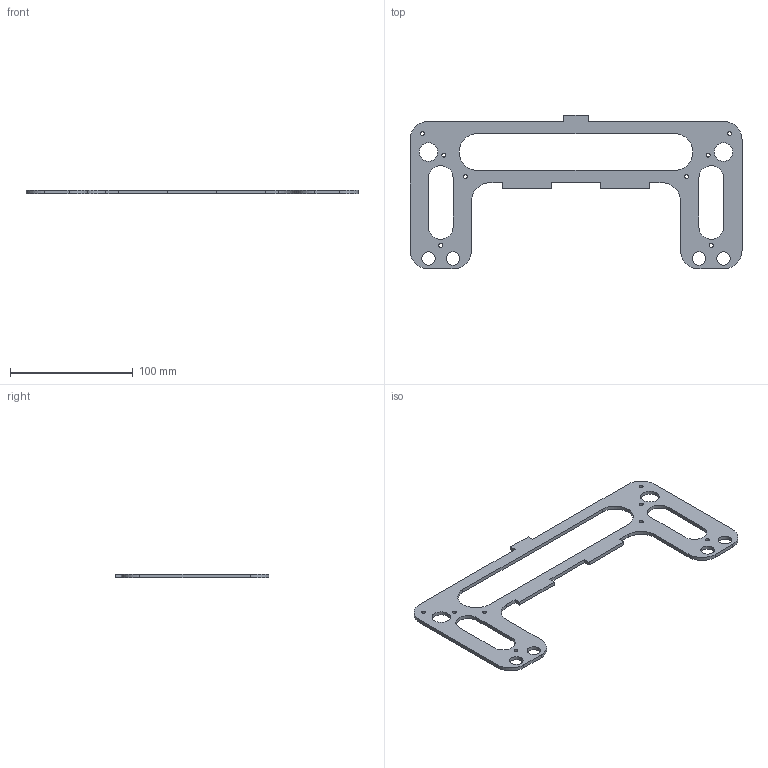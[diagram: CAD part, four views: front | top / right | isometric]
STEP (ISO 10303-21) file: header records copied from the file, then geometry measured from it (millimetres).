
FILE_DESCRIPTION (( 'STEP AP214' ), '1' );
FILE_NAME ('5-1着陆支架（改）.STEP', '2026-01-20T02:06:55', ( '' ), ( '' ), 'SwSTEP 2.0', 'SolidWorks 2024', '' );
FILE_SCHEMA (( 'AUTOMOTIVE_DESIGN' ));
Length unit declared in the file: millimetre
Products named in the file (1): 5-1着陆支架（改）
Bounding box: 270 x 125 x 3 mm (x, y, z)
Volume: 36821.3 mm3; surface area: 30281.5 mm2
Topology: 1 solids, 1 shells, 71 faces, 207 edges, 138 vertices
Faces by surface type: cylinder 43, plane 28
Entity records: 2478 total; most frequent: DIRECTION 437, CARTESIAN_POINT 417, ORIENTED_EDGE 414, EDGE_CURVE 207, AXIS2_PLACEMENT_3D 158, VERTEX_POINT 138, VECTOR 121, LINE 121
